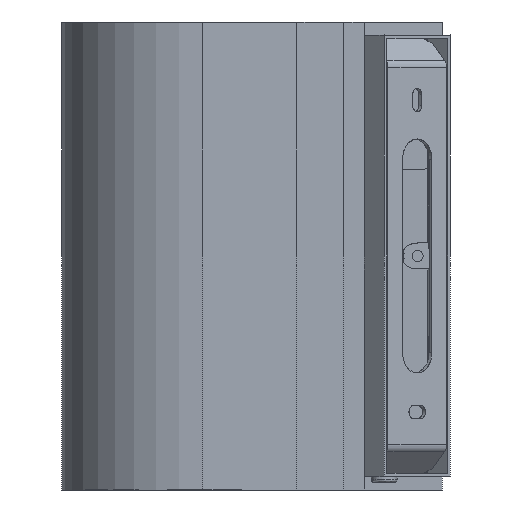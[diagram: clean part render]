
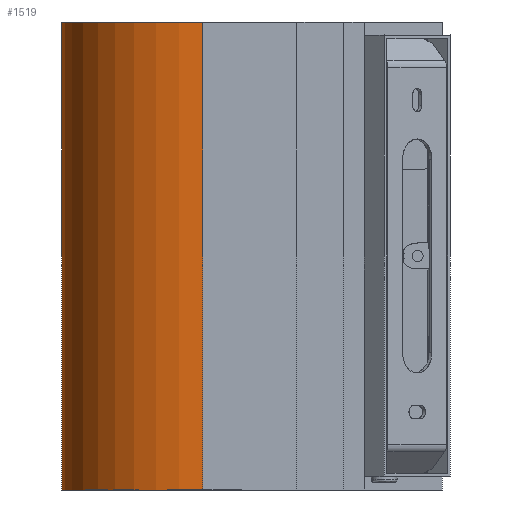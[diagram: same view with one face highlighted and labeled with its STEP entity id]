
A CAD part, left-side view. The second image highlights one B-rep face of the part: STEP entity #1519.
In plain terms, the highlighted cylindrical face has radius 54.235 mm (diameter 108.47 mm), a partial arc.
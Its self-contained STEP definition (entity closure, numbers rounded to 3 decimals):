
#1519=ADVANCED_FACE('',(#1891),#9214,.F.);
#1891=FACE_OUTER_BOUND('',#2309,.T.);
#2309=EDGE_LOOP('',(#3781,#3782,#3783,#3784));
#3781=ORIENTED_EDGE('',*,*,#5437,.F.);
#3782=ORIENTED_EDGE('',*,*,#5438,.F.);
#3783=ORIENTED_EDGE('',*,*,#5439,.F.);
#3784=ORIENTED_EDGE('',*,*,#5436,.F.);
#5436=EDGE_CURVE('',#8836,#8839,#7243,.T.);
#5437=EDGE_CURVE('',#8837,#8836,#5916,.T.);
#5438=EDGE_CURVE('',#8838,#8837,#7244,.T.);
#5439=EDGE_CURVE('',#8839,#8838,#5917,.T.);
#5916=TRIMMED_CURVE($,#6213,(#18596),(#18597),.T.,.CARTESIAN.);
#5917=TRIMMED_CURVE($,#6214,(#18601),(#18602),.T.,.CARTESIAN.);
#6213=CIRCLE('',#9891,54.235);
#6214=CIRCLE('',#9892,54.235);
#7243=B_SPLINE_CURVE_WITH_KNOTS('',1,(#18593,#18594),.UNSPECIFIED.,.F.,
 .F.,(2,2),(0.,1.),.UNSPECIFIED.);
#7244=B_SPLINE_CURVE_WITH_KNOTS('',1,(#18598,#18599),.UNSPECIFIED.,.F.,
 .F.,(2,2),(3.356,4.356),.UNSPECIFIED.);
#8836=VERTEX_POINT('',#18589);
#8837=VERTEX_POINT('',#18590);
#8838=VERTEX_POINT('',#18591);
#8839=VERTEX_POINT('',#18592);
#9214=CYLINDRICAL_SURFACE('',#9890,54.235);
#9890=AXIS2_PLACEMENT_3D('',#18588,#10822,$);
#9891=AXIS2_PLACEMENT_3D($,#18595,#10823,#10824);
#9892=AXIS2_PLACEMENT_3D($,#18600,#10825,#10826);
#10822=DIRECTION('',(0.,0.,1.));
#10823=DIRECTION('',(0.,0.,-1.));
#10824=DIRECTION('',(-1.,0.,0.));
#10825=DIRECTION('',(0.,0.,1.));
#10826=DIRECTION('',(0.707,0.707,0.));
#18588=CARTESIAN_POINT('',(64.235,58.235,0.));
#18589=CARTESIAN_POINT('',(102.585,96.585,90.));
#18590=CARTESIAN_POINT('',(10.,58.235,90.));
#18591=CARTESIAN_POINT('',(10.,58.235,-90.));
#18592=CARTESIAN_POINT('',(102.585,96.585,-90.));
#18593=CARTESIAN_POINT('',(102.585,96.585,90.));
#18594=CARTESIAN_POINT('',(102.585,96.585,-90.));
#18595=CARTESIAN_POINT('',(64.235,58.235,90.));
#18596=CARTESIAN_POINT('',(10.,58.235,90.));
#18597=CARTESIAN_POINT('',(102.585,96.585,90.));
#18598=CARTESIAN_POINT('',(10.,58.235,-90.));
#18599=CARTESIAN_POINT('',(10.,58.235,90.));
#18600=CARTESIAN_POINT('',(64.235,58.235,-90.));
#18601=CARTESIAN_POINT('',(102.585,96.585,-90.));
#18602=CARTESIAN_POINT('',(10.,58.235,-90.));
